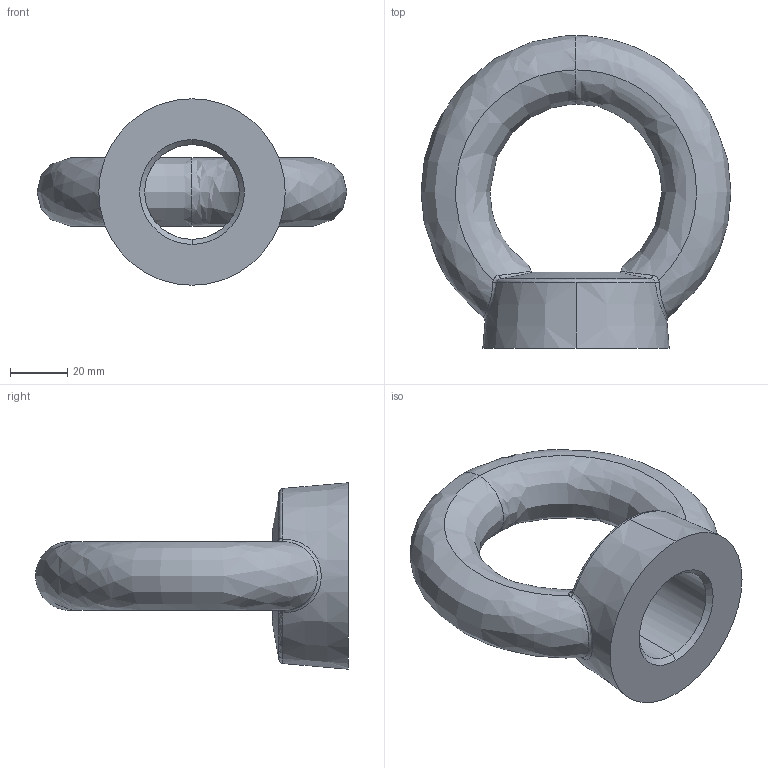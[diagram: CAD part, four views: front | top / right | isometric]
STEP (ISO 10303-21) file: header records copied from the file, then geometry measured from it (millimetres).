
FILE_DESCRIPTION (( 'STEP AP203' ), '1' );
FILE_NAME ('P4041.330-ZP.step', '2023-04-16T08:01:14', ( '' ), ( '' ), 'SwSTEP 2.0', 'SolidWorks 2019', '' );
FILE_SCHEMA (( 'CONFIG_CONTROL_DESIGN' ));
Length unit declared in the file: millimetre
Products named in the file (1): P4041.330-ZP
Bounding box: 108 x 109 x 65 mm (x, y, z)
Volume: 150098.6 mm3; surface area: 26768.8 mm2
Topology: 1 solids, 1 shells, 27 faces, 69 edges, 41 vertices
Faces by surface type: bspline 14, cone 7, torus 3, cylinder 2, plane 1
Entity records: 3282 total; most frequent: CARTESIAN_POINT 2656, ORIENTED_EDGE 138, DIRECTION 87, EDGE_CURVE 69, VERTEX_POINT 41, AXIS2_PLACEMENT_3D 40, B_SPLINE_CURVE_WITH_KNOTS 34, EDGE_LOOP 28
